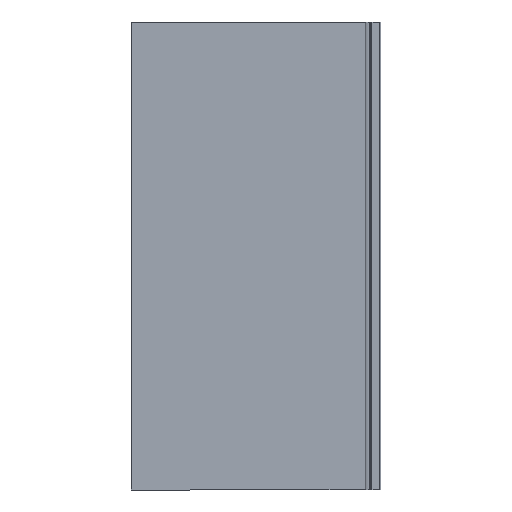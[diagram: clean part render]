
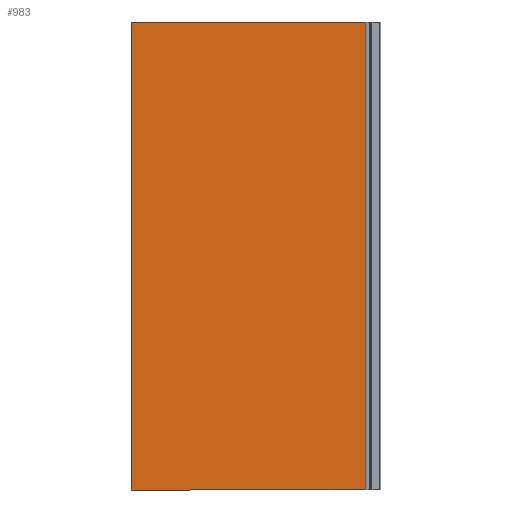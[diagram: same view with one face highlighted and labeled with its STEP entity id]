
A CAD part, front view. The second image highlights one B-rep face of the part: STEP entity #983.
In plain terms, the highlighted planar face has unit normal (0, -1, 0).
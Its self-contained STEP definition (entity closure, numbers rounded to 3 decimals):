
#23=CIRCLE($,#1046,0.1);
#93=FACE_OUTER_BOUND($,#143,.T.);
#143=EDGE_LOOP($,(#648,#649,#650,#651,#652,#653,#654));
#187=LINE($,#1420,#282);
#208=LINE($,#1479,#303);
#209=LINE($,#1481,#304);
#210=LINE($,#1483,#305);
#211=LINE($,#1487,#306);
#212=LINE($,#1488,#307);
#282=VECTOR($,#1129,1500.);
#303=VECTOR($,#1182,1.);
#304=VECTOR($,#1185,20.);
#305=VECTOR($,#1186,769.9);
#306=VECTOR($,#1189,1500.9);
#307=VECTOR($,#1190,750.);
#377=VERTEX_POINT($,#1418);
#378=VERTEX_POINT($,#1419);
#398=VERTEX_POINT($,#1473);
#400=VERTEX_POINT($,#1477);
#401=VERTEX_POINT($,#1482);
#402=VERTEX_POINT($,#1484);
#403=VERTEX_POINT($,#1486);
#471=EDGE_CURVE($,#377,#378,#187,.T.);
#500=EDGE_CURVE($,#398,#400,#208,.T.);
#501=EDGE_CURVE($,#398,#377,#209,.T.);
#502=EDGE_CURVE($,#400,#401,#210,.T.);
#503=EDGE_CURVE($,#401,#402,#23,.T.);
#504=EDGE_CURVE($,#403,#402,#211,.T.);
#505=EDGE_CURVE($,#403,#378,#212,.T.);
#648=ORIENTED_EDGE($,*,*,#501,.F.);
#649=ORIENTED_EDGE($,*,*,#500,.T.);
#650=ORIENTED_EDGE($,*,*,#502,.T.);
#651=ORIENTED_EDGE($,*,*,#503,.T.);
#652=ORIENTED_EDGE($,*,*,#504,.F.);
#653=ORIENTED_EDGE($,*,*,#505,.T.);
#654=ORIENTED_EDGE($,*,*,#471,.F.);
#899=PLANE($,#1045);
#983=ADVANCED_FACE($,(#93),#899,.F.);
#1045=AXIS2_PLACEMENT_3D($,#1480,#1183,#1184);
#1046=AXIS2_PLACEMENT_3D($,#1485,#1187,#1188);
#1129=DIRECTION($,(0.,0.,-1.));
#1182=DIRECTION($,(0.,0.,1.));
#1183=DIRECTION('center_axis',(0.,1.,0.));
#1184=DIRECTION('ref_axis',(-1.,0.,0.));
#1185=DIRECTION($,(-1.,0.,0.));
#1186=DIRECTION($,(-1.,0.,0.));
#1187=DIRECTION('center_axis',(0.,-1.,0.));
#1188=DIRECTION('ref_axis',(-0.707,0.,0.707));
#1189=DIRECTION($,(0.,0.,1.));
#1190=DIRECTION($,(1.,0.,0.));
#1418=CARTESIAN_POINT('',(-198.267,-33.944,1524.944));
#1419=CARTESIAN_POINT('',(-198.267,-33.944,24.944));
#1420=CARTESIAN_POINT($,(-198.267,-33.944,775.444));
#1473=CARTESIAN_POINT('',(-178.267,-33.944,1524.944));
#1477=CARTESIAN_POINT('',(-178.267,-33.944,1525.944));
#1479=CARTESIAN_POINT($,(-178.267,-33.944,24.944));
#1480=CARTESIAN_POINT('Origin',(-178.267,-33.944,25.944));
#1481=CARTESIAN_POINT($,(-177.402,-33.944,1524.944));
#1482=CARTESIAN_POINT('',(-948.167,-33.944,1525.944));
#1483=CARTESIAN_POINT($,(-178.267,-33.944,1525.944));
#1484=CARTESIAN_POINT('',(-948.267,-33.944,1525.844));
#1485=CARTESIAN_POINT('Origin',(-948.167,-33.944,1525.844));
#1486=CARTESIAN_POINT('',(-948.267,-33.944,24.944));
#1487=CARTESIAN_POINT($,(-948.267,-33.944,25.944));
#1488=CARTESIAN_POINT($,(-948.267,-33.944,24.944));
